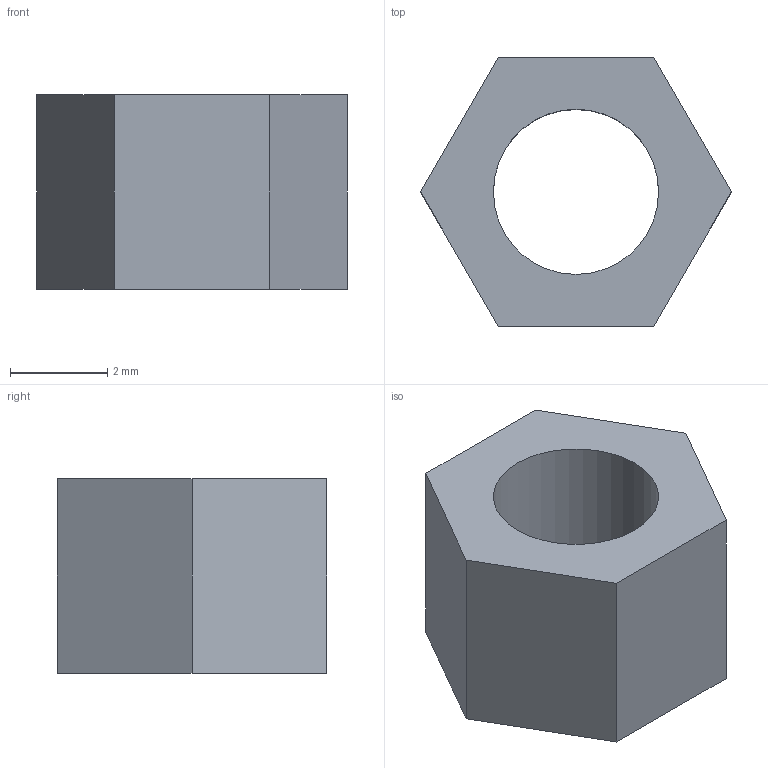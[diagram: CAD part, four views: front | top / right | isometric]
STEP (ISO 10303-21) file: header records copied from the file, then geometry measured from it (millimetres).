
FILE_DESCRIPTION(('Open CASCADE Model'),'2;1');
FILE_NAME('Open CASCADE Shape Model','2026-11-11T19:28:18',('Author'),( 'Open CASCADE'),'Open CASCADE STEP processor 7.9','Open CASCADE 7.9' ,'Unknown');
FILE_SCHEMA(('AUTOMOTIVE_DESIGN { 1 0 10303 214 1 1 1 1 }'));
Length unit declared in the file: millimetre
Products named in the file (1): Open CASCADE STEP translator 7.9 16
Bounding box: 6.4 x 5.54 x 4 mm (x, y, z)
Volume: 70.1 mm3; surface area: 154.6 mm2
Topology: 1 solids, 1 shells, 9 faces, 21 edges, 14 vertices
Faces by surface type: plane 8, cylinder 1
Full cylindrical faces by diameter (mm): 3.4 x1
Entity records: 550 total; most frequent: CARTESIAN_POINT 99, DIRECTION 83, LINE 59, VECTOR 59, ORIENTED_EDGE 42, PCURVE 42, DEFINITIONAL_REPRESENTATION 42, EDGE_CURVE 21
